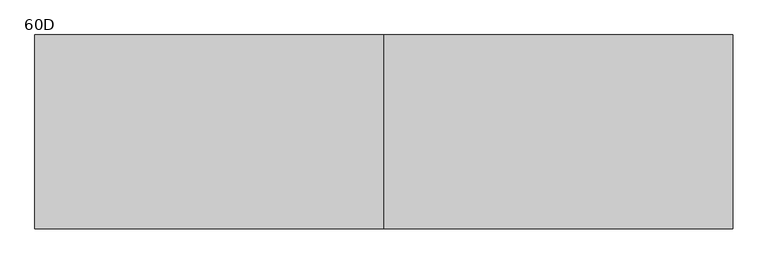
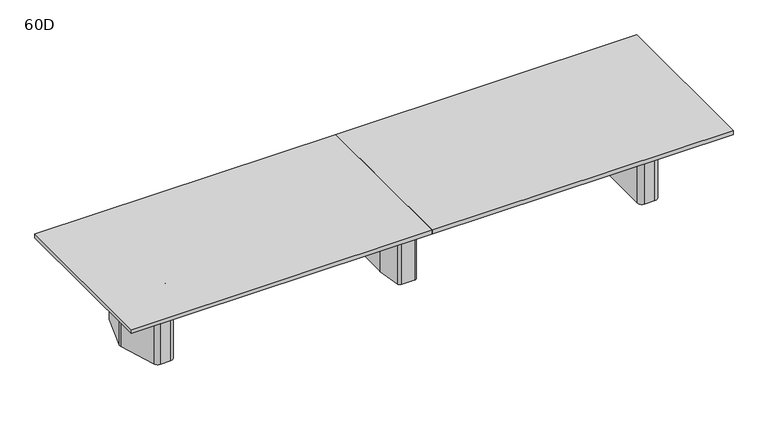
"""IFC4 building model written with IfcOpenShell, lengths in millimetres: furniture geometry, Coalesse_AM_Table_Conference_ETable2_Rectangular_18ft_ThreeBase : 60D."""

from ifc_helpers import new_model, si_unit, point, frame, frame_2d, origin, origin_with_axes, place, context, project, spatial, polyline, circle_curve, trimmed, segment, composite_curve, outline, extrude, source, transform, mapped, element, save
from ifc_brep_helpers import plane_surface, cylinder_surface, revolved_surface, advanced_brep


def furniture_60d_9ba469dc(model_context):
    return source(origin(), model_context, "Body", "SolidModel", [
        advanced_brep(
        [(61.0357815, 381.0, 698.5), (-61.0357815, 381.0, 698.5), (-86.1885994, 359.1349332, 698.5), (-117.2278179, 138.2753661, 698.5), (-117.475, 134.740433, 698.5), (-117.475, -134.7404196, 698.5), (-117.2278463, -138.2751502, 698.5), (-86.1904395, -359.1347306, 698.5), (-61.0375932, -381.0, 698.5), (61.0375932, -381.0, 698.5), (86.1904395, -359.1347306, 698.5), (117.2278463, -138.2751502, 698.5), (117.475, -134.7404196, 698.5), (117.475, 134.740433, 698.5), (117.2278179, 138.2753661, 698.5), (86.1885994, 359.1349332, 698.5), (25.4, 314.325, 698.5), (50.8, 288.925, 698.5), (50.8, -288.925, 698.5), (25.4, -314.325, 698.5), (-25.4, -314.325, 698.5), (-50.8, -288.925, 698.5), (-50.8, 288.925, 698.5), (-25.4, 314.325, 698.5), (61.0357815, 381.0, 3.175), (86.1885994, 359.1349332, 3.175), (117.2278179, 138.2753661, 3.175), (117.475, 134.740433, 3.175), (117.475, -134.7404196, 3.175), (117.2278463, -138.2751502, 3.175), (86.1904395, -359.1347306, 3.175), (61.0375932, -381.0, 3.175), (-61.0375932, -381.0, 3.175), (-86.1904395, -359.1347306, 3.175), (-117.2278463, -138.2751502, 3.175), (-117.475, -134.7404196, 3.175), (-117.475, 134.740433, 3.175), (-117.2278179, 138.2753661, 3.175), (-86.1885994, 359.1349332, 3.175), (-61.0357815, 381.0, 3.175), (25.4, 327.025, 3.175), (-25.4, 327.025, 3.175), (-63.5, 288.925, 3.175), (-63.5, -288.925, 3.175), (-25.4, -327.025, 3.175), (25.4, -327.025, 3.175), (63.5, -288.925, 3.175), (63.5, 288.925, 3.175), (25.4, 314.325, 3.175), (50.8, 288.925, 3.175), (50.8, -288.925, 3.175), (25.4, -314.325, 3.175), (-25.4, -314.325, 3.175), (-50.8, -288.925, 3.175), (-50.8, 288.925, 3.175), (-25.4, 314.325, 3.175), (25.4, 327.025, 0.0), (63.5, 288.925, 0.0), (63.5, -288.925, 0.0), (25.4, -327.025, 0.0), (-25.4, -327.025, 0.0), (-63.5, -288.925, 0.0), (-63.5, 288.925, 0.0), (-25.4, 327.025, 0.0)],
        [
            (0, 1),
            (1, 2, circle_curve(frame((-61.0357815, 355.6, 698.5), z_axis=(0.0, 0.0, 1.0), x_axis=(1.0, 0.0, 0.0)), 25.4)),
            (2, 3),
            (3, 4, circle_curve(frame((-92.075, 134.740433, 698.5), z_axis=(0.0, 0.0, 1.0), x_axis=(1.0, 0.0, 0.0)), 25.4)),
            (4, 5),
            (5, 6, circle_curve(frame((-92.075, -134.7404196, 698.5), z_axis=(0.0, 0.0, 1.0), x_axis=(1.0, 0.0, 0.0)), 25.4)),
            (6, 7),
            (7, 8, circle_curve(frame((-61.0375932, -355.6, 698.5), z_axis=(0.0, 0.0, 1.0), x_axis=(1.0, 0.0, 0.0)), 25.4)),
            (8, 9),
            (9, 10, circle_curve(frame((61.0375932, -355.6, 698.5), z_axis=(0.0, 0.0, 1.0), x_axis=(1.0, 0.0, 0.0)), 25.4)),
            (10, 11),
            (11, 12, circle_curve(frame((92.075, -134.7404196, 698.5), z_axis=(0.0, 0.0, 1.0), x_axis=(1.0, 0.0, 0.0)), 25.4)),
            (12, 13),
            (13, 14, circle_curve(frame((92.075, 134.740433, 698.5), z_axis=(0.0, 0.0, 1.0), x_axis=(1.0, 0.0, 0.0)), 25.4)),
            (14, 15),
            (15, 0, circle_curve(frame((61.0357815, 355.6, 698.5), z_axis=(0.0, 0.0, 1.0), x_axis=(1.0, 0.0, 0.0)), 25.4)),
            (16, 17, circle_curve(frame((25.4, 288.925, 698.5), z_axis=(0.0, 0.0, -1.0), x_axis=(1.0, 0.0, 0.0)), 25.4)),
            (17, 18),
            (18, 19, circle_curve(frame((25.4, -288.925, 698.5), z_axis=(0.0, 0.0, -1.0), x_axis=(1.0, 0.0, 0.0)), 25.4)),
            (19, 20),
            (20, 21, circle_curve(frame((-25.4, -288.925, 698.5), z_axis=(0.0, 0.0, -1.0), x_axis=(1.0, 0.0, 0.0)), 25.4)),
            (21, 22),
            (22, 23, circle_curve(frame((-25.4, 288.925, 698.5), z_axis=(0.0, 0.0, -1.0), x_axis=(1.0, 0.0, 0.0)), 25.4)),
            (23, 16),
            (24, 25, circle_curve(frame((61.0357815, 355.6, 3.175), z_axis=(0.0, 0.0, -1.0), x_axis=(1.0, 0.0, 0.0)), 25.4)),
            (25, 26),
            (26, 27, circle_curve(frame((92.075, 134.740433, 3.175), z_axis=(0.0, 0.0, -1.0), x_axis=(1.0, 0.0, 0.0)), 25.4)),
            (27, 28),
            (28, 29, circle_curve(frame((92.075, -134.7404196, 3.175), z_axis=(0.0, 0.0, -1.0), x_axis=(1.0, 0.0, 0.0)), 25.4)),
            (29, 30),
            (30, 31, circle_curve(frame((61.0375932, -355.6, 3.175), z_axis=(0.0, 0.0, -1.0), x_axis=(1.0, 0.0, 0.0)), 25.4)),
            (31, 32),
            (32, 33, circle_curve(frame((-61.0375932, -355.6, 3.175), z_axis=(0.0, 0.0, -1.0), x_axis=(1.0, 0.0, 0.0)), 25.4)),
            (33, 34),
            (34, 35, circle_curve(frame((-92.075, -134.7404196, 3.175), z_axis=(0.0, 0.0, -1.0), x_axis=(1.0, 0.0, 0.0)), 25.4)),
            (35, 36),
            (36, 37, circle_curve(frame((-92.075, 134.740433, 3.175), z_axis=(0.0, 0.0, -1.0), x_axis=(1.0, 0.0, 0.0)), 25.4)),
            (37, 38),
            (38, 39, circle_curve(frame((-61.0357815, 355.6, 3.175), z_axis=(0.0, 0.0, -1.0), x_axis=(1.0, 0.0, 0.0)), 25.4)),
            (39, 24),
            (40, 41),
            (41, 42, circle_curve(frame((-25.4, 288.925, 3.175), z_axis=(0.0, 0.0, 1.0), x_axis=(1.0, 0.0, 0.0)), 38.1)),
            (42, 43),
            (43, 44, circle_curve(frame((-25.4, -288.925, 3.175), z_axis=(0.0, 0.0, 1.0), x_axis=(1.0, 0.0, 0.0)), 38.1)),
            (44, 45),
            (45, 46, circle_curve(frame((25.4, -288.925, 3.175), z_axis=(0.0, 0.0, 1.0), x_axis=(1.0, 0.0, 0.0)), 38.1)),
            (46, 47),
            (47, 40, circle_curve(frame((25.4, 288.925, 3.175), z_axis=(0.0, 0.0, 1.0), x_axis=(1.0, 0.0, 0.0)), 38.1)),
            (0, 24),
            (39, 1),
            (38, 2),
            (37, 3),
            (36, 4),
            (35, 5),
            (34, 6),
            (33, 7),
            (32, 8),
            (31, 9),
            (30, 10),
            (29, 11),
            (28, 12),
            (27, 13),
            (26, 14),
            (25, 15),
            (16, 48),
            (48, 49, circle_curve(frame((25.4, 288.925, 3.175), z_axis=(0.0, 0.0, -1.0), x_axis=(1.0, 0.0, 0.0)), 25.4)),
            (49, 17),
            (49, 50),
            (50, 18),
            (50, 51, circle_curve(frame((25.4, -288.925, 3.175), z_axis=(0.0, 0.0, -1.0), x_axis=(1.0, 0.0, 0.0)), 25.4)),
            (51, 19),
            (51, 52),
            (52, 20),
            (52, 53, circle_curve(frame((-25.4, -288.925, 3.175), z_axis=(0.0, 0.0, -1.0), x_axis=(1.0, 0.0, 0.0)), 25.4)),
            (53, 21),
            (53, 54),
            (54, 22),
            (54, 55, circle_curve(frame((-25.4, 288.925, 3.175), z_axis=(0.0, 0.0, -1.0), x_axis=(1.0, 0.0, 0.0)), 25.4)),
            (55, 23),
            (55, 48),
            (56, 57, circle_curve(frame((25.4, 288.925, 0.0), z_axis=(0.0, 0.0, -1.0), x_axis=(1.0, 0.0, 0.0)), 38.1)),
            (57, 58),
            (58, 59, circle_curve(frame((25.4, -288.925, 0.0), z_axis=(0.0, 0.0, -1.0), x_axis=(1.0, 0.0, 0.0)), 38.1)),
            (59, 60),
            (60, 61, circle_curve(frame((-25.4, -288.925, 0.0), z_axis=(0.0, 0.0, -1.0), x_axis=(1.0, 0.0, 0.0)), 38.1)),
            (61, 62),
            (62, 63, circle_curve(frame((-25.4, 288.925, 0.0), z_axis=(0.0, 0.0, -1.0), x_axis=(1.0, 0.0, 0.0)), 38.1)),
            (63, 56),
            (63, 41),
            (40, 56),
            (62, 42),
            (61, 43),
            (60, 44),
            (59, 45),
            (58, 46),
            (57, 47),
        ],
        [
            plane_surface(frame((-1524.0, 381.0, 698.5), z_axis=(0.0, 0.0, 1.0), x_axis=(-1.0, 0.0, 0.0))),
            plane_surface(frame((-1524.0, 381.0, 3.175), z_axis=(0.0, 0.0, -1.0), x_axis=(1.0, 0.0, 0.0))),
            plane_surface(frame((61.0357815, 381.0, 698.5), z_axis=(0.0, 1.0, 0.0), x_axis=(0.0, 0.0, -1.0))),
            cylinder_surface(frame((-61.0357815, 355.6, 3.175), z_axis=(0.0, 0.0, 1.0), x_axis=(1.0, 0.0, 0.0)), 25.4),
            plane_surface(frame((-86.1885994, 359.1349332, 698.5), z_axis=(-0.9902684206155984, 0.13917059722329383, 0.0), x_axis=(0.0, 0.0, -1.0))),
            cylinder_surface(frame((-92.075, 134.740433, 3.175), z_axis=(0.0, 0.0, 1.0), x_axis=(1.0, 0.0, 0.0)), 25.4),
            plane_surface(frame((-117.475, 134.740433, 698.5), z_axis=(-1.0, 0.0, 0.0), x_axis=(0.0, 0.0, -1.0))),
            cylinder_surface(frame((-92.075, -134.7404196, 3.175), z_axis=(0.0, 0.0, 1.0), x_axis=(1.0, 0.0, 0.0)), 25.4),
            plane_surface(frame((-117.2278463, -138.2751502, 698.5), z_axis=(-0.9902695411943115, -0.1391626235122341, 0.0), x_axis=(0.0, 0.0, -1.0))),
            cylinder_surface(frame((-61.0375932, -355.6, 3.175), z_axis=(0.0, 0.0, 1.0), x_axis=(1.0, 0.0, 0.0)), 25.4),
            plane_surface(frame((-61.0375932, -381.0, 698.5), z_axis=(0.0, -1.0, 0.0), x_axis=(0.0, 0.0, -1.0))),
            cylinder_surface(frame((61.0375932, -355.6, 3.175), z_axis=(0.0, 0.0, 1.0), x_axis=(1.0, 0.0, 0.0)), 25.4),
            plane_surface(frame((86.1904395, -359.1347306, 698.5), z_axis=(0.9902695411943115, -0.1391626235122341, 0.0), x_axis=(0.0, 0.0, -1.0))),
            cylinder_surface(frame((92.075, -134.7404196, 3.175), z_axis=(0.0, 0.0, 1.0), x_axis=(1.0, 0.0, 0.0)), 25.4),
            plane_surface(frame((117.475, -134.7404196, 698.5), z_axis=(1.0, 0.0, 0.0), x_axis=(0.0, 0.0, -1.0))),
            cylinder_surface(frame((92.075, 134.740433, 3.175), z_axis=(0.0, 0.0, 1.0), x_axis=(1.0, 0.0, 0.0)), 25.4),
            plane_surface(frame((117.2278179, 138.2753661, 698.5), z_axis=(0.9902684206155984, 0.13917059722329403, 0.0), x_axis=(0.0, 0.0, -1.0))),
            cylinder_surface(frame((61.0357815, 355.6, 3.175), z_axis=(0.0, 0.0, 1.0), x_axis=(1.0, 0.0, 0.0)), 25.4),
            revolved_surface(polyline([(50.8, 288.925, 3.175), (50.8, 288.925, 698.5)]), (25.4, 288.925, 0.0), (0.0, 0.0, -1.0)),
            plane_surface(frame((50.8, 288.925, 698.5), z_axis=(-1.0, 0.0, 0.0), x_axis=(0.0, 0.0, -1.0))),
            revolved_surface(polyline([(50.8, -288.925, 3.175), (50.8, -288.925, 698.5)]), (25.4, -288.925, 0.0), (0.0, 0.0, -1.0)),
            plane_surface(frame((25.4, -314.325, 698.5), z_axis=(0.0, 1.0, 0.0), x_axis=(0.0, 0.0, -1.0))),
            revolved_surface(polyline([(0.0, -288.925, 3.175), (0.0, -288.925, 698.5)]), (-25.4, -288.925, 0.0), (0.0, 0.0, -1.0)),
            plane_surface(frame((-50.8, -288.925, 698.5), z_axis=(1.0, 0.0, 0.0), x_axis=(0.0, 0.0, -1.0))),
            revolved_surface(polyline([(0.0, 288.925, 3.175), (0.0, 288.925, 698.5)]), (-25.4, 288.925, 0.0), (0.0, 0.0, -1.0)),
            plane_surface(frame((-25.4, 314.325, 698.5), z_axis=(0.0, -1.0, 0.0), x_axis=(0.0, 0.0, -1.0))),
            plane_surface(frame((-50.8, 327.025, 3.175), z_axis=(0.0, 0.0, 1.0), x_axis=(-1.0, 0.0, 0.0))),
            plane_surface(frame((-50.8, 327.025, 0.0), z_axis=(0.0, 0.0, -1.0), x_axis=(1.0, 0.0, 0.0))),
            plane_surface(frame((25.4, 327.025, 3.175), z_axis=(0.0, 1.0, 0.0), x_axis=(0.0, 0.0, -1.0))),
            cylinder_surface(frame((-25.4, 288.925, 0.0), z_axis=(0.0, 0.0, 1.0), x_axis=(1.0, 0.0, 0.0)), 38.1),
            plane_surface(frame((-63.5, 288.925, 3.175), z_axis=(-1.0, 0.0, 0.0), x_axis=(0.0, 0.0, -1.0))),
            cylinder_surface(frame((-25.4, -288.925, 0.0), z_axis=(0.0, 0.0, 1.0), x_axis=(1.0, 0.0, 0.0)), 38.1),
            plane_surface(frame((-25.4, -327.025, 3.175), z_axis=(0.0, -1.0, 0.0), x_axis=(0.0, 0.0, -1.0))),
            cylinder_surface(frame((25.4, -288.925, 0.0), z_axis=(0.0, 0.0, 1.0), x_axis=(1.0, 0.0, 0.0)), 38.1),
            plane_surface(frame((63.5, -288.925, 3.175), z_axis=(1.0, 0.0, 0.0), x_axis=(0.0, 0.0, -1.0))),
            cylinder_surface(frame((25.4, 288.925, 0.0), z_axis=(0.0, 0.0, 1.0), x_axis=(1.0, 0.0, 0.0)), 38.1),
        ],
        [
            (0, [[1, 2, 3, 4, 5, 6, 7, 8, 9, 10, 11, 12, 13, 14, 15, 16], [17, 18, 19, 20, 21, 22, 23, 24]]),
            (1, [[25, 26, 27, 28, 29, 30, 31, 32, 33, 34, 35, 36, 37, 38, 39, 40], [41, 42, 43, 44, 45, 46, 47, 48]]),
            (2, [[-1, 49, -40, 50]]),
            (3, [[-2, -50, -39, 51]]),
            (4, [[-3, -51, -38, 52]]),
            (5, [[-4, -52, -37, 53]]),
            (6, [[-5, -53, -36, 54]]),
            (7, [[-6, -54, -35, 55]]),
            (8, [[-7, -55, -34, 56]]),
            (9, [[-8, -56, -33, 57]]),
            (10, [[-9, -57, -32, 58]]),
            (11, [[-10, -58, -31, 59]]),
            (12, [[-11, -59, -30, 60]]),
            (13, [[-12, -60, -29, 61]]),
            (14, [[-13, -61, -28, 62]]),
            (15, [[-14, -62, -27, 63]]),
            (16, [[-15, -63, -26, 64]]),
            (17, [[-16, -64, -25, -49]]),
            (18, [[-17, 65, 66, 67]]),
            (19, [[-18, -67, 68, 69]]),
            (20, [[-19, -69, 70, 71]]),
            (21, [[-20, -71, 72, 73]]),
            (22, [[-21, -73, 74, 75]]),
            (23, [[-22, -75, 76, 77]]),
            (24, [[-23, -77, 78, 79]]),
            (25, [[-24, -79, 80, -65]]),
            (26, [[-66, -80, -78, -76, -74, -72, -70, -68]]),
            (27, [[81, 82, 83, 84, 85, 86, 87, 88]]),
            (28, [[-88, 89, -41, 90]]),
            (29, [[-87, 91, -42, -89]]),
            (30, [[-86, 92, -43, -91]]),
            (31, [[-85, 93, -44, -92]]),
            (32, [[-84, 94, -45, -93]]),
            (33, [[-83, 95, -46, -94]]),
            (34, [[-82, 96, -47, -95]]),
            (35, [[-81, -90, -48, -96]]),
        ],
    ),
        extrude(outline(composite_curve([segment(polyline([(2341.5625, 101.7236478), (2341.5625, -97.2761514)]), True, "CONTINUOUS"), segment(trimmed(circle_curve(frame_2d((2303.4625, -97.2761514)), 38.1), [point((2341.5625, -97.2761514))], [point((2339.7991129, -108.7330515))], False, "CARTESIAN"), True, "CONTINUOUS"), segment(polyline([(2339.7991129, -108.7330515), (2281.3745591, -294.0319001)]), True, "CONTINUOUS"), segment(trimmed(circle_curve(frame_2d((2245.0379462, -282.575)), 38.1), [point((2281.3745591, -294.0319001))], [point((2245.0379462, -320.675))], False, "CARTESIAN"), True, "CONTINUOUS"), segment(polyline([(2245.0379462, -320.675), (2178.05, -320.675)]), True, "CONTINUOUS"), segment(trimmed(circle_curve(frame_2d((2178.05, -282.575)), 38.1), [point((2178.05, -320.675))], [point((2139.95, -282.575))], False, "CARTESIAN"), True, "CONTINUOUS"), segment(polyline([(2139.95, -282.575), (2139.95, 282.575)]), True, "CONTINUOUS"), segment(trimmed(circle_curve(frame_2d((2178.05, 282.575)), 38.1), [point((2139.95, 282.575))], [point((2178.05, 320.675))], False, "CARTESIAN"), True, "CONTINUOUS"), segment(polyline([(2178.05, 320.675), (2248.7873998, 320.675)]), True, "CONTINUOUS"), segment(trimmed(circle_curve(frame_2d((2248.7873998, 282.575)), 38.1), [point((2248.7873998, 320.675))], [point((2285.2572049, 293.6005756))], False, "CARTESIAN"), True, "CONTINUOUS"), segment(polyline([(2285.2572049, 293.6005756), (2339.9323051, 112.7492234)]), True, "CONTINUOUS"), segment(trimmed(circle_curve(frame_2d((2303.4625, 101.7236478)), 38.1), [point((2339.9323051, 112.7492234))], [point((2341.5625, 101.7236478))], False, "CARTESIAN"), True, "CONTINUOUS")], self_intersect=False)), origin_with_axes(), (0.0, 0.0, 1.0), 3.175),
        extrude(outline(composite_curve([segment(polyline([(2162.175, 381.0), (2250.3221663, 381.0)]), True, "CONTINUOUS"), segment(trimmed(circle_curve(frame_2d((2250.3221663, 339.725)), 41.275), [point((2250.3221663, 381.0))], [point((2289.6868303, 352.1366418))], False, "CARTESIAN"), True, "CONTINUOUS"), segment(polyline([(2289.6868303, 352.1366418), (2396.8018053, 12.4116418)]), True, "CONTINUOUS"), segment(trimmed(circle_curve(frame_2d((2357.4371413, 0.0)), 41.275), [point((2396.8018053, 12.4116418))], [point((2396.8018053, -12.4116418))], False, "CARTESIAN"), True, "CONTINUOUS"), segment(polyline([(2396.8018053, -12.4116418), (2289.6868303, -352.1366418)]), True, "CONTINUOUS"), segment(trimmed(circle_curve(frame_2d((2250.3221663, -339.725)), 41.275), [point((2289.6868303, -352.1366418))], [point((2250.3221663, -381.0))], False, "CARTESIAN"), True, "CONTINUOUS"), segment(polyline([(2250.3221663, -381.0), (2155.825, -381.0)]), True, "CONTINUOUS"), segment(trimmed(circle_curve(frame_2d((2155.825, -339.725)), 41.275), [point((2155.825, -381.0))], [point((2114.55, -339.725))], False, "CARTESIAN"), True, "CONTINUOUS"), segment(polyline([(2114.55, -339.725), (2114.55, 333.375)]), True, "CONTINUOUS"), segment(trimmed(circle_curve(frame_2d((2162.175, 333.375)), 47.625), [point((2114.55, 333.375))], [point((2162.175, 381.0))], False, "CARTESIAN"), True, "CONTINUOUS")], self_intersect=False), holes=[composite_curve([segment(trimmed(circle_curve(frame_2d((2178.05, -282.575)), 25.4), [point((2152.65, -282.575))], [point((2178.05, -307.975))], True, "CARTESIAN"), True, "CONTINUOUS"), segment(polyline([(2178.05, -307.975), (2245.0379462, -307.975)]), True, "CONTINUOUS"), segment(trimmed(circle_curve(frame_2d((2245.0379462, -282.575)), 25.4), [point((2245.0379462, -307.975))], [point((2269.2623548, -290.2129334))], True, "CARTESIAN"), True, "CONTINUOUS"), segment(polyline([(2269.2623548, -290.2129334), (2327.6869086, -104.9140848)]), True, "CONTINUOUS"), segment(trimmed(circle_curve(frame_2d((2303.4625, -97.2761514)), 25.4), [point((2327.6869086, -104.9140848))], [point((2328.8625, -97.2761514))], True, "CARTESIAN"), True, "CONTINUOUS"), segment(polyline([(2328.8625, -97.2761514), (2328.8625, 101.7236478)]), True, "CONTINUOUS"), segment(trimmed(circle_curve(frame_2d((2303.4625, 101.7236478)), 25.4), [point((2328.8625, 101.7236478))], [point((2327.7757034, 109.0740316))], True, "CARTESIAN"), True, "CONTINUOUS"), segment(polyline([(2327.7757034, 109.0740316), (2273.1006032, 289.9253837)]), True, "CONTINUOUS"), segment(trimmed(circle_curve(frame_2d((2248.7873998, 282.575)), 25.4), [point((2273.1006032, 289.9253837))], [point((2248.7873998, 307.975))], True, "CARTESIAN"), True, "CONTINUOUS"), segment(polyline([(2248.7873998, 307.975), (2178.05, 307.975)]), True, "CONTINUOUS"), segment(trimmed(circle_curve(frame_2d((2178.05, 282.575)), 25.4), [point((2178.05, 307.975))], [point((2152.65, 282.575))], True, "CARTESIAN"), True, "CONTINUOUS"), segment(polyline([(2152.65, 282.575), (2152.65, -282.575)]), True, "CONTINUOUS")], self_intersect=False)]), frame((0.0, 0.0, 3.175), z_axis=(0.0, 0.0, 1.0), x_axis=(1.0, 0.0, 0.0)), (0.0, 0.0, 1.0), 695.325),
        extrude(outline(composite_curve([segment(trimmed(circle_curve(frame_2d((-2314.575, 101.7236478)), 38.1), [point((-2352.675, 101.7236478))], [point((-2351.0448051, 112.7492234))], False, "CARTESIAN"), True, "CONTINUOUS"), segment(polyline([(-2351.0448051, 112.7492234), (-2296.3697049, 293.6005756)]), True, "CONTINUOUS"), segment(trimmed(circle_curve(frame_2d((-2259.8998998, 282.575)), 38.1), [point((-2296.3697049, 293.6005756))], [point((-2259.8998998, 320.675))], False, "CARTESIAN"), True, "CONTINUOUS"), segment(polyline([(-2259.8998998, 320.675), (-2189.1625, 320.675)]), True, "CONTINUOUS"), segment(trimmed(circle_curve(frame_2d((-2189.1625, 282.575)), 38.1), [point((-2189.1625, 320.675))], [point((-2151.0625, 282.575))], False, "CARTESIAN"), True, "CONTINUOUS"), segment(polyline([(-2151.0625, 282.575), (-2151.0625, -282.575)]), True, "CONTINUOUS"), segment(trimmed(circle_curve(frame_2d((-2189.1625, -282.575)), 38.1), [point((-2151.0625, -282.575))], [point((-2189.1625, -320.675))], False, "CARTESIAN"), True, "CONTINUOUS"), segment(polyline([(-2189.1625, -320.675), (-2256.1504462, -320.675)]), True, "CONTINUOUS"), segment(trimmed(circle_curve(frame_2d((-2256.1504462, -282.575)), 38.1), [point((-2256.1504462, -320.675))], [point((-2292.4870591, -294.0319001))], False, "CARTESIAN"), True, "CONTINUOUS"), segment(polyline([(-2292.4870591, -294.0319001), (-2350.9116129, -108.7330515)]), True, "CONTINUOUS"), segment(trimmed(circle_curve(frame_2d((-2314.575, -97.2761514)), 38.1), [point((-2350.9116129, -108.7330515))], [point((-2352.675, -97.2761514))], False, "CARTESIAN"), True, "CONTINUOUS"), segment(polyline([(-2352.675, -97.2761514), (-2352.675, 101.7236478)]), True, "CONTINUOUS")], self_intersect=False)), origin_with_axes(), (0.0, 0.0, 1.0), 3.175),
        extrude(outline(composite_curve([segment(trimmed(circle_curve(frame_2d((-2173.2875, 333.375)), 47.625), [point((-2173.2875, 381.0))], [point((-2125.6625, 333.375))], False, "CARTESIAN"), True, "CONTINUOUS"), segment(polyline([(-2125.6625, 333.375), (-2125.6625, -339.725)]), True, "CONTINUOUS"), segment(trimmed(circle_curve(frame_2d((-2166.9375, -339.725)), 41.275), [point((-2125.6625, -339.725))], [point((-2166.9375, -381.0))], False, "CARTESIAN"), True, "CONTINUOUS"), segment(polyline([(-2166.9375, -381.0), (-2261.4346663, -381.0)]), True, "CONTINUOUS"), segment(trimmed(circle_curve(frame_2d((-2261.4346663, -339.725)), 41.275), [point((-2261.4346663, -381.0))], [point((-2300.7993303, -352.1366418))], False, "CARTESIAN"), True, "CONTINUOUS"), segment(polyline([(-2300.7993303, -352.1366418), (-2407.9143053, -12.4116418)]), True, "CONTINUOUS"), segment(trimmed(circle_curve(frame_2d((-2368.5496413, 0.0)), 41.275), [point((-2407.9143053, -12.4116418))], [point((-2407.9143053, 12.4116418))], False, "CARTESIAN"), True, "CONTINUOUS"), segment(polyline([(-2407.9143053, 12.4116418), (-2300.7993303, 352.1366418)]), True, "CONTINUOUS"), segment(trimmed(circle_curve(frame_2d((-2261.4346663, 339.725)), 41.275), [point((-2300.7993303, 352.1366418))], [point((-2261.4346663, 381.0))], False, "CARTESIAN"), True, "CONTINUOUS"), segment(polyline([(-2261.4346663, 381.0), (-2173.2875, 381.0)]), True, "CONTINUOUS")], self_intersect=False), holes=[composite_curve([segment(polyline([(-2163.7625, -282.575), (-2163.7625, 282.575)]), True, "CONTINUOUS"), segment(trimmed(circle_curve(frame_2d((-2189.1625, 282.575)), 25.4), [point((-2163.7625, 282.575))], [point((-2189.1625, 307.975))], True, "CARTESIAN"), True, "CONTINUOUS"), segment(polyline([(-2189.1625, 307.975), (-2259.8998998, 307.975)]), True, "CONTINUOUS"), segment(trimmed(circle_curve(frame_2d((-2259.8998998, 282.575)), 25.4), [point((-2259.8998998, 307.975))], [point((-2284.2131032, 289.9253837))], True, "CARTESIAN"), True, "CONTINUOUS"), segment(polyline([(-2284.2131032, 289.9253837), (-2338.8882034, 109.0740316)]), True, "CONTINUOUS"), segment(trimmed(circle_curve(frame_2d((-2314.575, 101.7236478)), 25.4), [point((-2338.8882034, 109.0740316))], [point((-2339.975, 101.7236478))], True, "CARTESIAN"), True, "CONTINUOUS"), segment(polyline([(-2339.975, 101.7236478), (-2339.975, -97.2761514)]), True, "CONTINUOUS"), segment(trimmed(circle_curve(frame_2d((-2314.575, -97.2761514)), 25.4), [point((-2339.975, -97.2761514))], [point((-2338.7994086, -104.9140848))], True, "CARTESIAN"), True, "CONTINUOUS"), segment(polyline([(-2338.7994086, -104.9140848), (-2280.3748548, -290.2129334)]), True, "CONTINUOUS"), segment(trimmed(circle_curve(frame_2d((-2256.1504462, -282.575)), 25.4), [point((-2280.3748548, -290.2129334))], [point((-2256.1504462, -307.975))], True, "CARTESIAN"), True, "CONTINUOUS"), segment(polyline([(-2256.1504462, -307.975), (-2189.1625, -307.975)]), True, "CONTINUOUS"), segment(trimmed(circle_curve(frame_2d((-2189.1625, -282.575)), 25.4), [point((-2189.1625, -307.975))], [point((-2163.7625, -282.575))], True, "CARTESIAN"), True, "CONTINUOUS")], self_intersect=False)]), frame((0.0, 0.0, 3.175), z_axis=(0.0, 0.0, 1.0), x_axis=(1.0, 0.0, 0.0)), (0.0, 0.0, 1.0), 695.325),
        extrude(outline(polyline([(2743.2, 762.0), (2743.2, -762.0), (0.0, -762.0), (0.0, 762.0), (2743.2, 762.0)])), frame((0.0, 0.0, 698.5), z_axis=(0.0, 0.0, 1.0), x_axis=(1.0, 0.0, 0.0)), (0.0, 0.0, 1.0), 38.1),
        extrude(outline(polyline([(0.0, 762.0), (0.0, -762.0), (-2743.2, -762.0), (-2743.2, 762.0), (0.0, 762.0)])), frame((0.0, 0.0, 698.5), z_axis=(0.0, 0.0, 1.0), x_axis=(1.0, 0.0, 0.0)), (0.0, 0.0, 1.0), 38.1),
        extrude(outline(polyline([(96.8375, 698.5), (103.1875, 698.5), (103.1875, 476.25), (-103.1875, 476.25), (-103.1875, 698.5), (-96.8375, 698.5), (-96.8375, 482.6), (96.8375, 482.6), (96.8375, 698.5)])), frame((-2125.6625, 0.0, 0.0), z_axis=(1.0, 0.0, 0.0), x_axis=(0.0, 1.0, 0.0)), (0.0, 0.0, 1.0), 4240.2125),
    ])


if __name__ == "__main__":
    model = new_model("IFC4")
    model_context = context("Model", 3, world=origin())
    ifc_project = project(units=[si_unit("LENGTHUNIT", "METRE", prefix="MILLI")], contexts=[model_context])
    site = spatial("IfcSite", under=ifc_project)
    building = spatial("IfcBuilding", under=site)
    placement = place(None, origin())
    furniture_60d_shape = furniture_60d_9ba469dc(model_context)
    element("IfcFurniture", 1, ObjectType="Coalesse_AM_Table_Conference_ETable2_Rectangular_18ft_ThreeBase : 60D", at=placement, inside=building, context=model_context, shape_type="MappedRepresentation", body=[
        mapped(furniture_60d_shape, transform((0.0, 0.0, 0.0), x_axis=(1.0, 0.0, 0.0), y_axis=(0.0, 1.0, 0.0), z_axis=(0.0, 0.0, 1.0))),
    ])
    save(model, "model.ifc")
